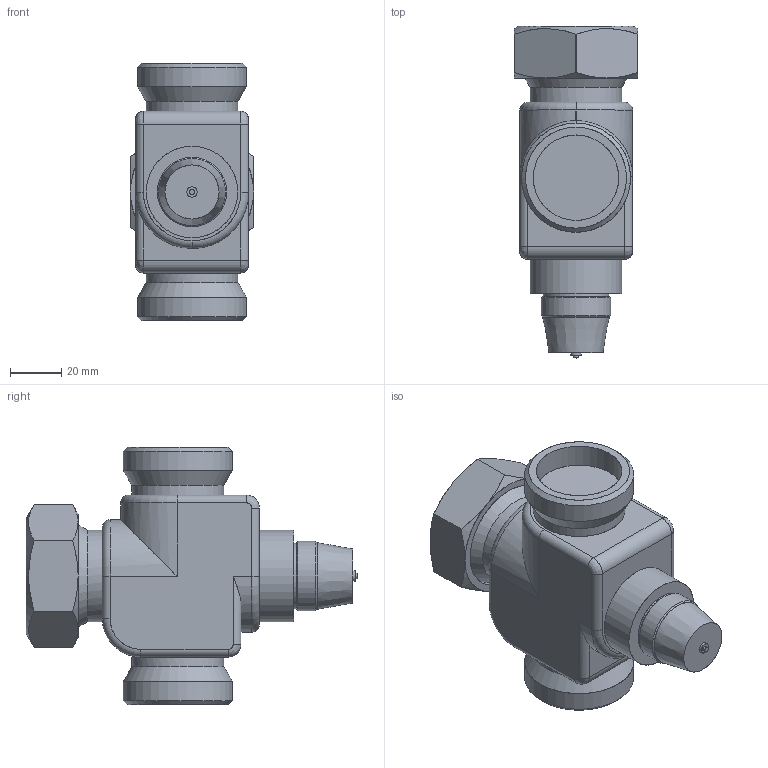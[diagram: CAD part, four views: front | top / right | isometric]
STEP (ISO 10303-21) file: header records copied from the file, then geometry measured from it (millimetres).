
FILE_DESCRIPTION(/* description */ (''),/* implementation_level */ '2;1');
FILE_NAME(/* name */ 'VVG44 DN20.stp',/* time_stamp */ '2013-10-01T09:14:20+02:00',/* author */ (''),/* organization */ (''),/* preprocessor_version */ 'ST-DEVELOPER v11',/* originating_system */ 'SIEMENS UGS NX 6.0',/* authorisation */ '');
FILE_SCHEMA (('AUTOMOTIVE_DESIGN { 1 0 10303 214 1 1 1 1 }'));
Length unit declared in the file: millimetre
Products named in the file (1): model4
Bounding box: 48 x 129 x 100 mm (x, y, z)
Surface area: 47649.8 mm2 (no closed solid volume)
Topology: 0 solids, 100 shells, 100 faces, 517 edges, 492 vertices
Faces by surface type: plane 40, cylinder 37, cone 11, torus 8, bspline 4
Full cylindrical faces by diameter (mm): 2 x1, 4 x1, 25.5 x1, 26.9 x1, 33.193 x3, 35.541 x1, 35.687 x3, 42.4 x4
Entity records: 7476 total; most frequent: CARTESIAN_POINT 3180, DIRECTION 604, ORIENTED_EDGE 491, VERTEX_POINT 491, EDGE_CURVE 491, AXIS2_PLACEMENT_3D 248, B_SPLINE_CURVE_WITH_KNOTS 216, CIRCLE 151
